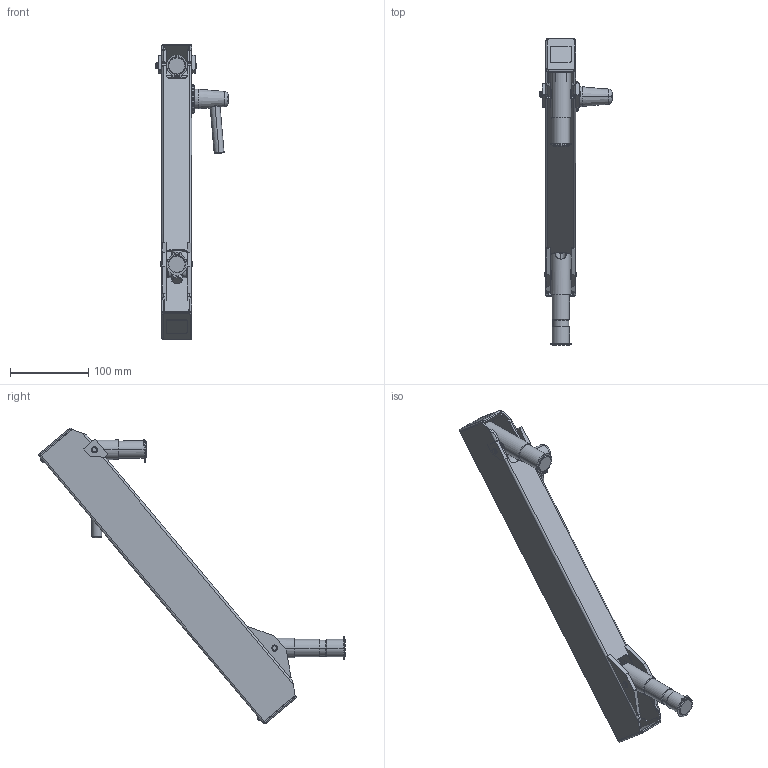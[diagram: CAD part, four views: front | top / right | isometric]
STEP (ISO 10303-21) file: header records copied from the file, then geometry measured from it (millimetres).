
FILE_DESCRIPTION (( 'STEP AP203' ), '1' );
FILE_NAME ('70-1321-00 REV AA, FLEX SECTION, 13.5in, 4-21 LB - UP.STEP', '2025-07-09T23:34:19', ( '' ), ( '' ), 'SwSTEP 2.0', 'SolidWorks 2025', '' );
FILE_SCHEMA (( 'CONFIG_CONTROL_DESIGN' ));
Length unit declared in the file: inch
Products named in the file (32): 71-0038-RX REV AA, PIVOT, KNUCKLE, ELECTROLESS NICKEL; 71-1032-RX REV AA, SPRING ROD, 13.5in FLEX; 70-1321-00 REV AA, FLEX SECTION, 13.5in, 4-21 LB - UP; 11-0027-RX REV AA, PLASTIC DISC, BRAKE ASSEMBLY_MACHINE; 11-0602-RX REV AA, HANDLE, BRAKE ASSEMBLY; 71-0028-RX REV AA, TAB, MOUNT_MACHINE; 016-070-00, BEARING, PLASTIC, .5ID x .625 OD x .75; 71-1301-BLKX REV AA, FLEX HOUSING, 13.5in, BLACK_Powder Coat; 011-020-00 REV AA, PIN, KNURLED, 1.0LG x .25OD; 71-1051-RX REV AA, SPRING BLOCK; 006-004-00_006-004-00; 71-0037-RX REV AA, PIVOT, THREADED; 004-144-00; 71-0071-RX REV AA, AXLE PIN, LONG; 71-0040-RX REV AA, BRAKE BLOCK, WIDE_MACHINE; 71-0972-99 REV AA, END CAP, FLEX; 010-012-00, RETAINING RING, EXTERNAL, .875in SHAFT; 11-0601-99 REV AA, CONICAL KNOB, BRAKE ASSEMBLY; 71-1300-RX REV AA, HOUSING, 13.5in FLEX; 004-050-00, WASHER, FIBER, .032 THK, .265ID; 010-011-00, RETAINING RING, EXT, .250 SHAFT_010-011-00; 71-0070-RX REV AA, AXLE PIN, SHORT; 011-033-00; 11-0650-00 REV AA, BRAKE HANDLE ASSEMBLY; 71-0029-RX REV AA, TAB, LOAD; 005-084-00, BOLT, 1''4-20x2.75; 71-1033-RX REV AA, BOLT, ADJUSTING, 10.9; 006-059-00; 71-0030-RX REV AA, KNUCKLE, LOAD_MACHINE; 013-062-00, SPRING, RED, 1x8_ISO425203; 71-0031-RX REV AA, KNUCKLE, MOUNT_MACHINE; 002-041-00_002-041-00
Assembly tree (52 placements, depth 3):
  70-1321-00 REV AA, FLEX SECTION, 13.5in, 4-21 LB - UP
    71-0031-RX REV AA, KNUCKLE, MOUNT_MACHINE
    71-1032-RX REV AA, SPRING ROD, 13.5in FLEX
    71-0030-RX REV AA, KNUCKLE, LOAD_MACHINE
    71-0038-RX REV AA, PIVOT, KNUCKLE, ELECTROLESS NICKEL
    71-1033-RX REV AA, BOLT, ADJUSTING, 10.9
    71-0037-RX REV AA, PIVOT, THREADED
    71-0040-RX REV AA, BRAKE BLOCK, WIDE_MACHINE
    71-1051-RX REV AA, SPRING BLOCK
    71-0070-RX REV AA, AXLE PIN, SHORT
    11-0027-RX REV AA, PLASTIC DISC, BRAKE ASSEMBLY_MACHINE
    11-0650-00 REV AA, BRAKE HANDLE ASSEMBLY
      11-0601-99 REV AA, CONICAL KNOB, BRAKE ASSEMBLY
      11-0602-RX REV AA, HANDLE, BRAKE ASSEMBLY
      11-0027-RX REV AA, PLASTIC DISC, BRAKE ASSEMBLY_MACHINE
      005-084-00, BOLT, 1''4-20x2.75
    71-1301-BLKX REV AA, FLEX HOUSING, 13.5in, BLACK_Powder Coat
      71-1300-RX REV AA, HOUSING, 13.5in FLEX
      71-0029-RX REV AA, TAB, LOAD  x2
      71-0028-RX REV AA, TAB, MOUNT_MACHINE  x2
    71-0071-RX REV AA, AXLE PIN, LONG
    010-011-00, RETAINING RING, EXT, .250 SHAFT_010-011-00  x4
    71-0972-99 REV AA, END CAP, FLEX  x2
    006-004-00_006-004-00  x2
    002-041-00_002-041-00  x2
    010-012-00, RETAINING RING, EXTERNAL, .875in SHAFT  x2
    011-033-00
    004-050-00, WASHER, FIBER, .032 THK, .265ID  x8
    011-020-00 REV AA, PIN, KNURLED, 1.0LG x .25OD  x2
    004-144-00  x3
    006-059-00
    013-062-00, SPRING, RED, 1x8_ISO425203
    016-070-00, BEARING, PLASTIC, .5ID x .625 OD x .75  x2
Bounding box: 92.23 x 392.56 x 378.83 mm (x, y, z)
Volume: 476674 mm3; surface area: 308124.4 mm2
Topology: 52 solids, 52 shells, 1067 faces, 2610 edges, 1642 vertices
Faces by surface type: cylinder 445, plane 371, cone 176, torus 45, bspline 24, sphere 6
Entity records: 61097 total; most frequent: CARTESIAN_POINT 39917, ORIENTED_EDGE 3614, DIRECTION 3578, EDGE_CURVE 1807, AXIS2_PLACEMENT_3D 1364, VERTEX_POINT 1136, LINE 850, VECTOR 850
